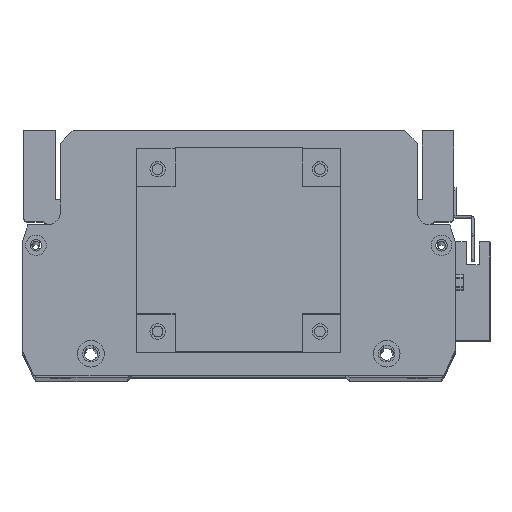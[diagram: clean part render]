
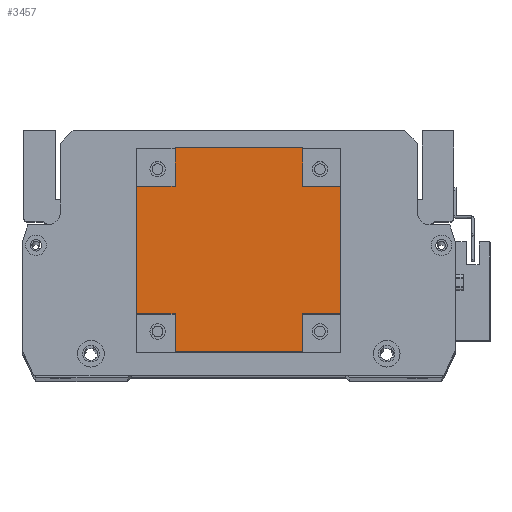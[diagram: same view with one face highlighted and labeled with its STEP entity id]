
A CAD part, top view. The second image highlights one B-rep face of the part: STEP entity #3457.
In plain terms, the highlighted planar face has unit normal (0, 0, 1).
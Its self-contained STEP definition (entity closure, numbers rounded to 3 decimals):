
#108 = CARTESIAN_POINT ( 'NONE',  ( 65., 0., 101.5 ) ) ;
#433 = CARTESIAN_POINT ( 'NONE',  ( 0., 80., 101.5 ) ) ;
#1197 = CARTESIAN_POINT ( 'NONE',  ( 0., 65., 101.5 ) ) ;
#1782 = DIRECTION ( 'NONE',  ( 1., 0., 0. ) ) ;
#1907 = FACE_OUTER_BOUND ( 'NONE', #10902, .T. ) ;
#1942 = ORIENTED_EDGE ( 'NONE', *, *, #17283, .F. ) ;
#2136 = ORIENTED_EDGE ( 'NONE', *, *, #17570, .F. ) ;
#2695 = DIRECTION ( 'NONE',  ( -1., 0., 0. ) ) ;
#2703 = VECTOR ( 'NONE', #24043, 1000. ) ;
#2831 = VERTEX_POINT ( 'NONE', #1197 ) ;
#2850 = DIRECTION ( 'NONE',  ( 0., -1., 0. ) ) ;
#3059 = LINE ( 'NONE', #14010, #12028 ) ;
#3457 = ADVANCED_FACE ( 'NONE', ( #1907 ), #4344, .F. ) ;
#3779 = VERTEX_POINT ( 'NONE', #7777 ) ;
#3945 = CARTESIAN_POINT ( 'NONE',  ( 80., 15., 101.5 ) ) ;
#4344 = PLANE ( 'NONE',  #24805 ) ;
#4680 = VECTOR ( 'NONE', #11767, 1000. ) ;
#5053 = LINE ( 'NONE', #11082, #9876 ) ;
#5309 = VERTEX_POINT ( 'NONE', #16612 ) ;
#5409 = VECTOR ( 'NONE', #2695, 1000. ) ;
#5646 = CARTESIAN_POINT ( 'NONE',  ( 15., 80., 101.5 ) ) ;
#5974 = VECTOR ( 'NONE', #24002, 1000. ) ;
#6384 = VERTEX_POINT ( 'NONE', #16912 ) ;
#6649 = LINE ( 'NONE', #16287, #5974 ) ;
#6661 = VERTEX_POINT ( 'NONE', #13735 ) ;
#6993 = DIRECTION ( 'NONE',  ( 0., 1., 0. ) ) ;
#7281 = ORIENTED_EDGE ( 'NONE', *, *, #17646, .F. ) ;
#7309 = LINE ( 'NONE', #16455, #19812 ) ;
#7716 = CARTESIAN_POINT ( 'NONE',  ( 15., 0., 101.5 ) ) ;
#7752 = DIRECTION ( 'NONE',  ( 0., 1., 0. ) ) ;
#7777 = CARTESIAN_POINT ( 'NONE',  ( 65., 15., 101.5 ) ) ;
#8129 = DIRECTION ( 'NONE',  ( -1., 0., 0. ) ) ;
#8207 = VERTEX_POINT ( 'NONE', #108 ) ;
#8522 = CARTESIAN_POINT ( 'NONE',  ( 0., 15., 101.5 ) ) ;
#8634 = VECTOR ( 'NONE', #15543, 1000. ) ;
#9013 = ORIENTED_EDGE ( 'NONE', *, *, #16313, .T. ) ;
#9080 = CARTESIAN_POINT ( 'NONE',  ( 65., 0., 101.5 ) ) ;
#9278 = VECTOR ( 'NONE', #7752, 1000. ) ;
#9643 = CARTESIAN_POINT ( 'NONE',  ( 15., 65., 101.5 ) ) ;
#9876 = VECTOR ( 'NONE', #6993, 1000. ) ;
#10038 = VERTEX_POINT ( 'NONE', #21520 ) ;
#10367 = CARTESIAN_POINT ( 'NONE',  ( 80., 0., 101.5 ) ) ;
#10757 = VERTEX_POINT ( 'NONE', #7716 ) ;
#10902 = EDGE_LOOP ( 'NONE', ( #11495, #15890, #1942, #12656, #20213, #2136, #19168, #24535, #7281, #9013, #20731, #14793 ) ) ;
#11082 = CARTESIAN_POINT ( 'NONE',  ( 15., 0., 101.5 ) ) ;
#11469 = LINE ( 'NONE', #433, #5409 ) ;
#11495 = ORIENTED_EDGE ( 'NONE', *, *, #16903, .T. ) ;
#11767 = DIRECTION ( 'NONE',  ( 0., -1., 0. ) ) ;
#12028 = VECTOR ( 'NONE', #1782, 1000. ) ;
#12183 = CARTESIAN_POINT ( 'NONE',  ( 65., 80., 101.5 ) ) ;
#12411 = VERTEX_POINT ( 'NONE', #19444 ) ;
#12480 = DIRECTION ( 'NONE',  ( -1., 0., 0. ) ) ;
#12656 = ORIENTED_EDGE ( 'NONE', *, *, #15526, .T. ) ;
#13053 = VERTEX_POINT ( 'NONE', #9643 ) ;
#13506 = LINE ( 'NONE', #8522, #2703 ) ;
#13735 = CARTESIAN_POINT ( 'NONE',  ( 15., 15., 101.5 ) ) ;
#14010 = CARTESIAN_POINT ( 'NONE',  ( 0., 65., 101.5 ) ) ;
#14136 = VECTOR ( 'NONE', #14239, 1000. ) ;
#14239 = DIRECTION ( 'NONE',  ( 0., 1., 0. ) ) ;
#14793 = ORIENTED_EDGE ( 'NONE', *, *, #17782, .F. ) ;
#15297 = LINE ( 'NONE', #17604, #4680 ) ;
#15526 = EDGE_CURVE ( 'NONE', #2831, #24028, #15297, .T. ) ;
#15543 = DIRECTION ( 'NONE',  ( 1., 0., 0. ) ) ;
#15890 = ORIENTED_EDGE ( 'NONE', *, *, #17167, .F. ) ;
#16103 = EDGE_CURVE ( 'NONE', #10757, #8207, #18987, .T. ) ;
#16287 = CARTESIAN_POINT ( 'NONE',  ( 65., 65., 101.5 ) ) ;
#16313 = EDGE_CURVE ( 'NONE', #6384, #5309, #24390, .T. ) ;
#16455 = CARTESIAN_POINT ( 'NONE',  ( 65., 80., 101.5 ) ) ;
#16612 = CARTESIAN_POINT ( 'NONE',  ( 80., 65., 101.5 ) ) ;
#16903 = EDGE_CURVE ( 'NONE', #24520, #10038, #11469, .T. ) ;
#16912 = CARTESIAN_POINT ( 'NONE',  ( 80., 15., 101.5 ) ) ;
#17167 = EDGE_CURVE ( 'NONE', #13053, #10038, #19549, .T. ) ;
#17283 = EDGE_CURVE ( 'NONE', #2831, #13053, #3059, .T. ) ;
#17419 = EDGE_CURVE ( 'NONE', #6661, #24028, #13506, .T. ) ;
#17570 = EDGE_CURVE ( 'NONE', #10757, #6661, #5053, .T. ) ;
#17578 = EDGE_CURVE ( 'NONE', #3779, #8207, #20746, .T. ) ;
#17604 = CARTESIAN_POINT ( 'NONE',  ( 0., 0., 101.5 ) ) ;
#17646 = EDGE_CURVE ( 'NONE', #6384, #3779, #23473, .T. ) ;
#17719 = EDGE_CURVE ( 'NONE', #12411, #5309, #6649, .T. ) ;
#17782 = EDGE_CURVE ( 'NONE', #24520, #12411, #7309, .T. ) ;
#18379 = CARTESIAN_POINT ( 'NONE',  ( 0., 15., 101.5 ) ) ;
#18987 = LINE ( 'NONE', #21313, #8634 ) ;
#19168 = ORIENTED_EDGE ( 'NONE', *, *, #16103, .T. ) ;
#19444 = CARTESIAN_POINT ( 'NONE',  ( 65., 65., 101.5 ) ) ;
#19549 = LINE ( 'NONE', #5646, #9278 ) ;
#19812 = VECTOR ( 'NONE', #22235, 1000. ) ;
#20213 = ORIENTED_EDGE ( 'NONE', *, *, #17419, .F. ) ;
#20731 = ORIENTED_EDGE ( 'NONE', *, *, #17719, .F. ) ;
#20746 = LINE ( 'NONE', #9080, #24673 ) ;
#21313 = CARTESIAN_POINT ( 'NONE',  ( 0., 0., 101.5 ) ) ;
#21520 = CARTESIAN_POINT ( 'NONE',  ( 15., 80., 101.5 ) ) ;
#22085 = CARTESIAN_POINT ( 'NONE',  ( 0., 0., 101.5 ) ) ;
#22235 = DIRECTION ( 'NONE',  ( 0., -1., 0. ) ) ;
#22865 = VECTOR ( 'NONE', #8129, 1000. ) ;
#23473 = LINE ( 'NONE', #3945, #22865 ) ;
#24002 = DIRECTION ( 'NONE',  ( 1., 0., 0. ) ) ;
#24020 = DIRECTION ( 'NONE',  ( 0., 0., -1. ) ) ;
#24028 = VERTEX_POINT ( 'NONE', #18379 ) ;
#24043 = DIRECTION ( 'NONE',  ( -1., 0., 0. ) ) ;
#24390 = LINE ( 'NONE', #10367, #14136 ) ;
#24520 = VERTEX_POINT ( 'NONE', #12183 ) ;
#24535 = ORIENTED_EDGE ( 'NONE', *, *, #17578, .F. ) ;
#24673 = VECTOR ( 'NONE', #2850, 1000. ) ;
#24805 = AXIS2_PLACEMENT_3D ( 'NONE', #22085, #24020, #12480 ) ;
